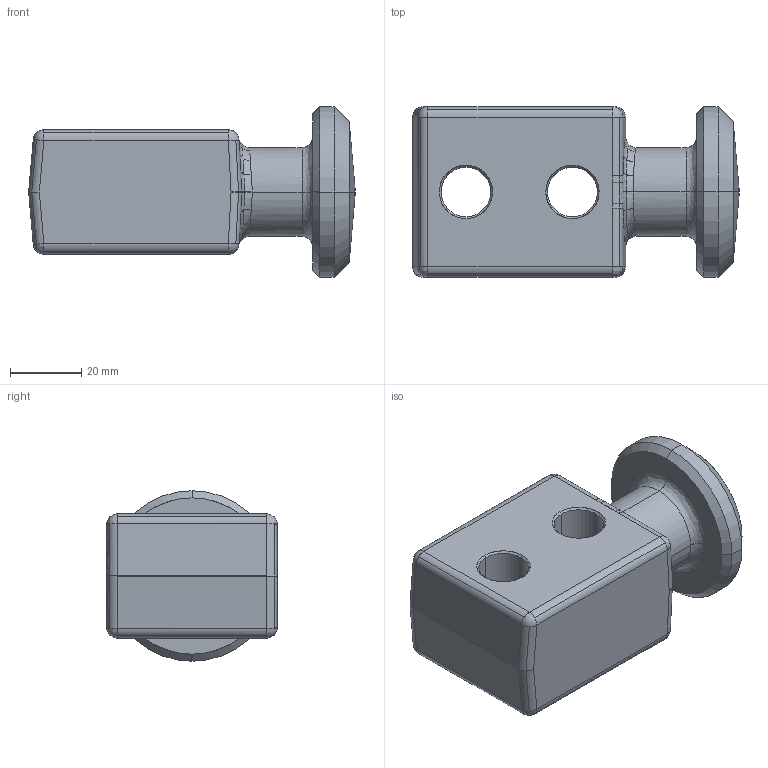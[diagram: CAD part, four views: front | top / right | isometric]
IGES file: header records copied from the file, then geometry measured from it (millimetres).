
Global section: file name: E:\UnigraphicsGraphicData\MISUMI_PRESS-PARTS\IGES\3d_chp25_03552_r00.igs; native system: NX V5.0; preprocessor: UGS NX IGES V5.0; author: MISUMI; date: 20110105.160225; units: millimetre
Bounding box: 92 x 48 x 48 mm (x, y, z)
Surface area: 19745.4 mm2 (no closed solid volume)
Topology: 0 solids, 0 shells, 155 faces, 788 edges, 774 vertices
Faces by surface type: bspline 155
